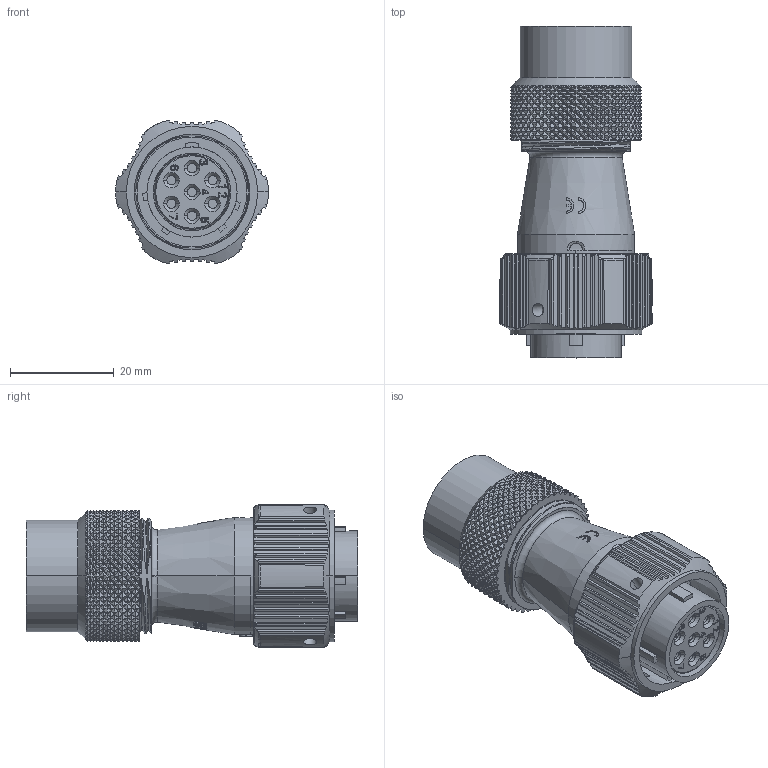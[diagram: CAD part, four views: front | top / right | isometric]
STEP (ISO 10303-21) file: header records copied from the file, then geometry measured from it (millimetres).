
FILE_DESCRIPTION((''),'2;1');
FILE_NAME('ASM0001_ASM','2020-06-05T',('Administrator'),(''),'CREO PARAMETRIC BY PTC INC, 2016130','CREO PARAMETRIC BY PTC INC, 2016130','');
FILE_SCHEMA(('CONFIG_CONTROL_DESIGN'));
Products named in the file (1): ASM0001_ASM
Bounding box: 29.47 x 64.1 x 27.75 mm (x, y, z)
Volume: 24675.2 mm3; surface area: 10911 mm2
Topology: 2 solids, 3 shells, 4363 faces, 9211 edges, 4883 vertices
Faces by surface type: bspline 3098, cylinder 687, plane 384, extrusion 83, cone 62, torus 33, sphere 16
Entity records: 192396 total; most frequent: CARTESIAN_POINT 126283, ORIENTED_EDGE 18398, EDGE_CURVE 9199, B_SPLINE_CURVE_WITH_KNOTS 7963, VERTEX_POINT 4883, EDGE_LOOP 4412, FACE_OUTER_BOUND 4363, ADVANCED_FACE 4363
